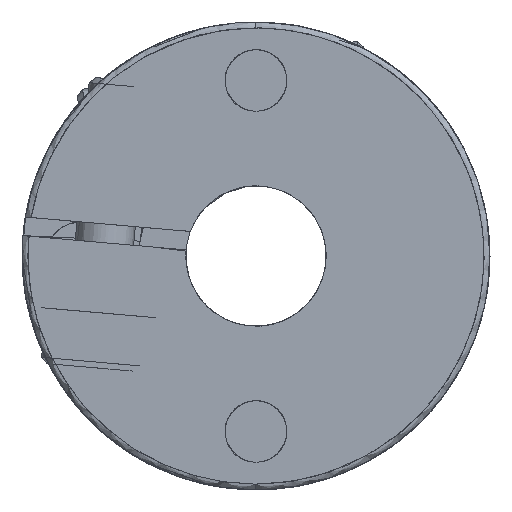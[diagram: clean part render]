
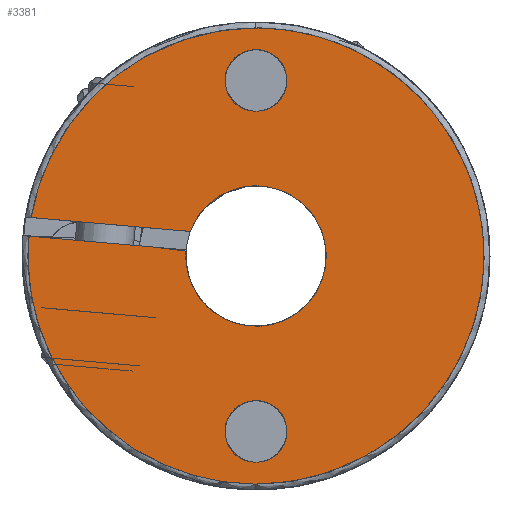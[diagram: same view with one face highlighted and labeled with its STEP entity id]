
A CAD part, left-side view. The second image highlights one B-rep face of the part: STEP entity #3381.
In plain terms, the highlighted planar face has unit normal (1, 0, 0).
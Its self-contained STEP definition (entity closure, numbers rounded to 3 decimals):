
#3381=ADVANCED_FACE('',(#3725,#3621,#3622),#11887,.T.);
#3621=FACE_BOUND('',#4018,.T.);
#3622=FACE_BOUND('',#4019,.T.);
#3725=FACE_OUTER_BOUND('',#4017,.T.);
#4017=EDGE_LOOP('',(#4423));
#4018=EDGE_LOOP('',(#4424));
#4019=EDGE_LOOP('',(#4425));
#4423=ORIENTED_EDGE('',*,*,#9417,.T.);
#4424=ORIENTED_EDGE('',*,*,#9418,.T.);
#4425=ORIENTED_EDGE('',*,*,#9419,.T.);
#6585=PCURVE('',#11887,#7529);
#6586=PCURVE('',#11887,#7530);
#6587=PCURVE('',#11887,#7531);
#7529=DEFINITIONAL_REPRESENTATION('',(#10326),#27704);
#7530=DEFINITIONAL_REPRESENTATION('',(#10328),#27704);
#7531=DEFINITIONAL_REPRESENTATION('',(#10330),#27704);
#8473=SURFACE_CURVE('',#10325,(#6585),.PCURVE_S1.);
#8474=SURFACE_CURVE('',#10327,(#6586),.PCURVE_S1.);
#8475=SURFACE_CURVE('',#10329,(#6587),.PCURVE_S1.);
#9417=EDGE_CURVE('',#11031,#11031,#8473,.T.);
#9418=EDGE_CURVE('',#11032,#11032,#8474,.T.);
#9419=EDGE_CURVE('',#11033,#11033,#8475,.T.);
#10325=(
BOUNDED_CURVE()
B_SPLINE_CURVE(2,(#13897,#13898,#13899,#13900,#13901,#13902,#13903,#13904,
#13905,#13906,#13907,#13908,#13909,#13910,#13911,#13912,#13913,#13914,#13915,
#13916,#13917,#13918,#13919,#13920,#13921),.UNSPECIFIED.,.T.,.F.)
B_SPLINE_CURVE_WITH_KNOTS((3,2,2,2,2,2,2,2,2,2,2,2,3),(-14.214,
-12.813,-11.242,-9.671,-8.842,-8.013,
-7.013,-6.926,-5.355,-3.784,
-2.392,-1.,0.),.UNSPECIFIED.)
CURVE()
GEOMETRIC_REPRESENTATION_ITEM()
RATIONAL_B_SPLINE_CURVE((1.,0.764,1.,0.707,1.,0.707,
1.,0.915,1.,0.915,1.,1.,1.,0.999,1.,
0.707,1.,0.707,1.,0.767,1.,0.767,
1.,1.,1.))
REPRESENTATION_ITEM('')
);
#10326=(
BOUNDED_CURVE()
B_SPLINE_CURVE(2,(#13922,#13923,#13924,#13925,#13926,#13927,#13928,#13929,
#13930,#13931,#13932,#13933,#13934,#13935,#13936,#13937,#13938,#13939,#13940,
#13941,#13942,#13943,#13944,#13945,#13946),.UNSPECIFIED.,.T.,.F.)
B_SPLINE_CURVE_WITH_KNOTS((3,2,2,2,2,2,2,2,2,2,2,2,3),(-14.214,
-12.813,-11.242,-9.671,-8.842,-8.013,
-7.013,-6.926,-5.355,-3.784,
-2.392,-1.,0.),.UNSPECIFIED.)
CURVE()
GEOMETRIC_REPRESENTATION_ITEM()
RATIONAL_B_SPLINE_CURVE((1.,0.764,1.,0.707,1.,0.707,
1.,0.915,1.,0.915,1.,1.,1.,0.999,1.,
0.707,1.,0.707,1.,0.767,1.,0.767,
1.,1.,1.))
REPRESENTATION_ITEM('')
);
#10327=(
BOUNDED_CURVE()
B_SPLINE_CURVE(2,(#13947,#13948,#13949,#13950,#13951,#13952,#13953,#13954,
#13955),.UNSPECIFIED.,.T.,.F.)
B_SPLINE_CURVE_WITH_KNOTS((3,2,2,2,3),(-6.283,-4.712,
-3.142,-1.571,0.),.UNSPECIFIED.)
CURVE()
GEOMETRIC_REPRESENTATION_ITEM()
RATIONAL_B_SPLINE_CURVE((1.,0.707,1.,0.707,1.,0.707,
1.,0.707,1.))
REPRESENTATION_ITEM('')
);
#10328=(
BOUNDED_CURVE()
B_SPLINE_CURVE(2,(#13956,#13957,#13958,#13959,#13960,#13961,#13962,#13963,
#13964),.UNSPECIFIED.,.T.,.F.)
B_SPLINE_CURVE_WITH_KNOTS((3,2,2,2,3),(-6.283,-4.712,
-3.142,-1.571,0.),.UNSPECIFIED.)
CURVE()
GEOMETRIC_REPRESENTATION_ITEM()
RATIONAL_B_SPLINE_CURVE((1.,0.707,1.,0.707,1.,0.707,
1.,0.707,1.))
REPRESENTATION_ITEM('')
);
#10329=(
BOUNDED_CURVE()
B_SPLINE_CURVE(2,(#13965,#13966,#13967,#13968,#13969,#13970,#13971,#13972,
#13973),.UNSPECIFIED.,.T.,.F.)
B_SPLINE_CURVE_WITH_KNOTS((3,2,2,2,3),(-6.283,-4.712,
-3.142,-1.571,0.),.UNSPECIFIED.)
CURVE()
GEOMETRIC_REPRESENTATION_ITEM()
RATIONAL_B_SPLINE_CURVE((1.,0.707,1.,0.707,1.,0.707,
1.,0.707,1.))
REPRESENTATION_ITEM('')
);
#10330=(
BOUNDED_CURVE()
B_SPLINE_CURVE(2,(#13974,#13975,#13976,#13977,#13978,#13979,#13980,#13981,
#13982),.UNSPECIFIED.,.T.,.F.)
B_SPLINE_CURVE_WITH_KNOTS((3,2,2,2,3),(-6.283,-4.712,
-3.142,-1.571,0.),.UNSPECIFIED.)
CURVE()
GEOMETRIC_REPRESENTATION_ITEM()
RATIONAL_B_SPLINE_CURVE((1.,0.707,1.,0.707,1.,0.707,
1.,0.707,1.))
REPRESENTATION_ITEM('')
);
#11031=VERTEX_POINT('',#13894);
#11032=VERTEX_POINT('',#13895);
#11033=VERTEX_POINT('',#13896);
#11887=PLANE('',#12049);
#12049=AXIS2_PLACEMENT_3D('',#13893,#12193,$);
#12193=DIRECTION('',(1.,0.,0.));
#13893=CARTESIAN_POINT('',(27.6,275.25,39.75));
#13894=CARTESIAN_POINT('',(27.6,294.61,31.644));
#13895=CARTESIAN_POINT('',(27.6,285.,36.175));
#13896=CARTESIAN_POINT('',(27.6,285.,21.175));
#13897=CARTESIAN_POINT('',(27.6,294.61,31.644));
#13898=CARTESIAN_POINT('',(27.6,293.224,39.75));
#13899=CARTESIAN_POINT('',(27.6,285.,39.75));
#13900=CARTESIAN_POINT('',(27.6,275.25,39.75));
#13901=CARTESIAN_POINT('',(27.6,275.25,30.));
#13902=CARTESIAN_POINT('',(27.6,275.25,20.25));
#13903=CARTESIAN_POINT('',(27.6,285.,20.25));
#13904=CARTESIAN_POINT('',(27.6,289.29,20.25));
#13905=CARTESIAN_POINT('',(27.6,292.188,23.413));
#13906=CARTESIAN_POINT('',(27.6,295.087,26.576));
#13907=CARTESIAN_POINT('',(27.6,294.713,30.85));
#13908=CARTESIAN_POINT('',(27.6,291.351,30.556));
#13909=CARTESIAN_POINT('',(27.6,287.989,30.261));
#13910=CARTESIAN_POINT('',(27.6,288.,30.131));
#13911=CARTESIAN_POINT('',(27.6,288.,30.));
#13912=CARTESIAN_POINT('',(27.6,288.,27.));
#13913=CARTESIAN_POINT('',(27.6,285.,27.));
#13914=CARTESIAN_POINT('',(27.6,282.,27.));
#13915=CARTESIAN_POINT('',(27.6,282.,30.));
#13916=CARTESIAN_POINT('',(27.6,282.,32.507));
#13917=CARTESIAN_POINT('',(27.6,284.467,32.952));
#13918=CARTESIAN_POINT('',(27.6,286.934,33.398));
#13919=CARTESIAN_POINT('',(27.6,287.811,31.049));
#13920=CARTESIAN_POINT('',(27.6,291.211,31.346));
#13921=CARTESIAN_POINT('',(27.6,294.61,31.644));
#13922=CARTESIAN_POINT('',(0.416,0.993));
#13923=CARTESIAN_POINT('',(0.,0.922));
#13924=CARTESIAN_POINT('',(0.,0.5));
#13925=CARTESIAN_POINT('',(0.,0.));
#13926=CARTESIAN_POINT('',(0.5,0.));
#13927=CARTESIAN_POINT('',(1.,0.));
#13928=CARTESIAN_POINT('',(1.,0.5));
#13929=CARTESIAN_POINT('',(1.,0.72));
#13930=CARTESIAN_POINT('',(0.838,0.869));
#13931=CARTESIAN_POINT('',(0.676,1.017));
#13932=CARTESIAN_POINT('',(0.456,0.998));
#13933=CARTESIAN_POINT('',(0.472,0.826));
#13934=CARTESIAN_POINT('',(0.487,0.653));
#13935=CARTESIAN_POINT('',(0.493,0.654));
#13936=CARTESIAN_POINT('',(0.5,0.654));
#13937=CARTESIAN_POINT('',(0.654,0.654));
#13938=CARTESIAN_POINT('',(0.654,0.5));
#13939=CARTESIAN_POINT('',(0.654,0.346));
#13940=CARTESIAN_POINT('',(0.5,0.346));
#13941=CARTESIAN_POINT('',(0.371,0.346));
#13942=CARTESIAN_POINT('',(0.349,0.473));
#13943=CARTESIAN_POINT('',(0.326,0.599));
#13944=CARTESIAN_POINT('',(0.446,0.644));
#13945=CARTESIAN_POINT('',(0.431,0.818));
#13946=CARTESIAN_POINT('',(0.416,0.993));
#13947=CARTESIAN_POINT('',(27.6,285.,36.175));
#13948=CARTESIAN_POINT('',(27.6,283.675,36.175));
#13949=CARTESIAN_POINT('',(27.6,283.675,37.5));
#13950=CARTESIAN_POINT('',(27.6,283.675,38.825));
#13951=CARTESIAN_POINT('',(27.6,285.,38.825));
#13952=CARTESIAN_POINT('',(27.6,286.325,38.825));
#13953=CARTESIAN_POINT('',(27.6,286.325,37.5));
#13954=CARTESIAN_POINT('',(27.6,286.325,36.175));
#13955=CARTESIAN_POINT('',(27.6,285.,36.175));
#13956=CARTESIAN_POINT('',(0.183,0.5));
#13957=CARTESIAN_POINT('',(0.183,0.432));
#13958=CARTESIAN_POINT('',(0.115,0.432));
#13959=CARTESIAN_POINT('',(0.047,0.432));
#13960=CARTESIAN_POINT('',(0.047,0.5));
#13961=CARTESIAN_POINT('',(0.047,0.568));
#13962=CARTESIAN_POINT('',(0.115,0.568));
#13963=CARTESIAN_POINT('',(0.183,0.568));
#13964=CARTESIAN_POINT('',(0.183,0.5));
#13965=CARTESIAN_POINT('',(27.6,285.,21.175));
#13966=CARTESIAN_POINT('',(27.6,283.675,21.175));
#13967=CARTESIAN_POINT('',(27.6,283.675,22.5));
#13968=CARTESIAN_POINT('',(27.6,283.675,23.825));
#13969=CARTESIAN_POINT('',(27.6,285.,23.825));
#13970=CARTESIAN_POINT('',(27.6,286.325,23.825));
#13971=CARTESIAN_POINT('',(27.6,286.325,22.5));
#13972=CARTESIAN_POINT('',(27.6,286.325,21.175));
#13973=CARTESIAN_POINT('',(27.6,285.,21.175));
#13974=CARTESIAN_POINT('',(0.953,0.5));
#13975=CARTESIAN_POINT('',(0.953,0.432));
#13976=CARTESIAN_POINT('',(0.885,0.432));
#13977=CARTESIAN_POINT('',(0.817,0.432));
#13978=CARTESIAN_POINT('',(0.817,0.5));
#13979=CARTESIAN_POINT('',(0.817,0.568));
#13980=CARTESIAN_POINT('',(0.885,0.568));
#13981=CARTESIAN_POINT('',(0.953,0.568));
#13982=CARTESIAN_POINT('',(0.953,0.5));
#27704=(
GEOMETRIC_REPRESENTATION_CONTEXT(2)
PARAMETRIC_REPRESENTATION_CONTEXT()
REPRESENTATION_CONTEXT('pspace','')
);
